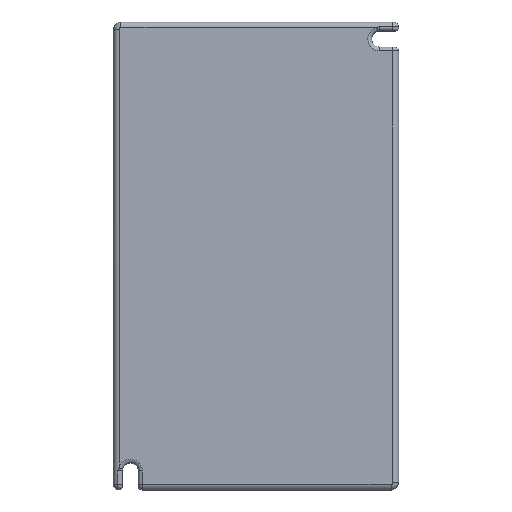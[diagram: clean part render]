
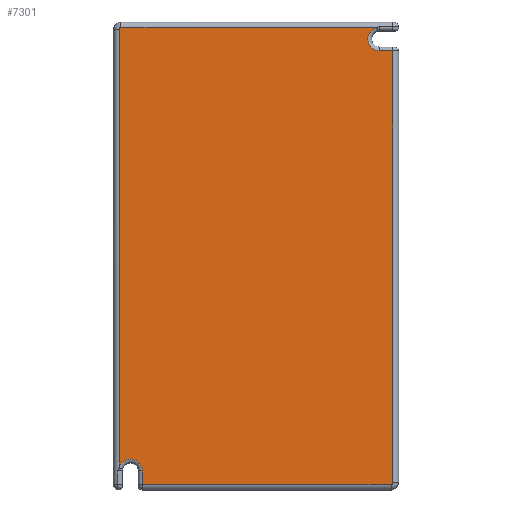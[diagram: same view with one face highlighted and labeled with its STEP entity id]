
A CAD part, front view. The second image highlights one B-rep face of the part: STEP entity #7301.
In plain terms, the highlighted planar face has unit normal (0, -1, 0).
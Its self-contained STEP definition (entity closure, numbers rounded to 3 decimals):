
#71=CARTESIAN_POINT('',(32.5,0.,57.));
#72=DIRECTION('',(0.,1.,0.));
#73=DIRECTION('',(0.,0.,-1.));
#74=AXIS2_PLACEMENT_3D('',#71,#72,#73);
#76=DIRECTION('',(-1.,0.,0.));
#77=VECTOR('',#76,3.5);
#78=CARTESIAN_POINT('',(36.,0.,53.9));
#79=LINE('',#78,#77);
#80=DIRECTION('',(0.,0.,1.));
#81=VECTOR('',#80,113.4);
#82=CARTESIAN_POINT('',(36.,0.,-59.5));
#83=LINE('',#82,#81);
#84=CARTESIAN_POINT('',(35.5,0.,-59.5));
#85=DIRECTION('',(0.,1.,0.));
#86=DIRECTION('',(1.,0.,0.));
#87=AXIS2_PLACEMENT_3D('',#84,#85,#86);
#89=DIRECTION('',(1.,0.,0.));
#90=VECTOR('',#89,65.4);
#91=CARTESIAN_POINT('',(-29.9,0.,-60.));
#92=LINE('',#91,#90);
#93=DIRECTION('',(0.,0.,-1.));
#94=VECTOR('',#93,3.5);
#95=CARTESIAN_POINT('',(-29.9,0.,-56.5));
#96=LINE('',#95,#94);
#97=CARTESIAN_POINT('',(-33.,0.,-56.5));
#98=DIRECTION('',(0.,1.,0.));
#99=DIRECTION('',(-0.968,0.,0.252));
#100=AXIS2_PLACEMENT_3D('',#97,#98,#99);
#102=DIRECTION('',(0.,0.,-1.));
#103=VECTOR('',#102,115.219);
#104=CARTESIAN_POINT('',(-36.,0.,59.5));
#105=LINE('',#104,#103);
#106=CARTESIAN_POINT('',(-35.5,0.,59.5));
#107=DIRECTION('',(0.,1.,0.));
#108=DIRECTION('',(-1.,0.,0.));
#109=AXIS2_PLACEMENT_3D('',#106,#107,#108);
#111=DIRECTION('',(-1.,0.,0.));
#112=VECTOR('',#111,67.219);
#113=CARTESIAN_POINT('',(31.719,0.,60.));
#114=LINE('',#113,#112);
#129=CARTESIAN_POINT('',(31.719,0.,60.));
#6977=CARTESIAN_POINT('',(-35.5,0.,60.));
#6978=VERTEX_POINT('',#6977);
#6979=CARTESIAN_POINT('',(-36.,0.,59.5));
#6980=VERTEX_POINT('',#6979);
#6981=CARTESIAN_POINT('',(35.5,0.,-60.));
#6982=VERTEX_POINT('',#6981);
#6983=CARTESIAN_POINT('',(36.,0.,-59.5));
#6984=VERTEX_POINT('',#6983);
#7210=VERTEX_POINT('',#129);
#7212=CARTESIAN_POINT('',(32.5,0.,53.9));
#7213=VERTEX_POINT('',#7212);
#7216=CARTESIAN_POINT('',(36.,0.,53.9));
#7217=VERTEX_POINT('',#7216);
#7236=CARTESIAN_POINT('',(-29.9,0.,-60.));
#7237=VERTEX_POINT('',#7236);
#7240=CARTESIAN_POINT('',(-29.9,0.,-56.5));
#7241=VERTEX_POINT('',#7240);
#7244=CARTESIAN_POINT('',(-36.,0.,-55.719));
#7245=VERTEX_POINT('',#7244);
#7274=CARTESIAN_POINT('',(0.,0.,0.));
#7275=DIRECTION('',(0.,1.,0.));
#7276=DIRECTION('',(1.,0.,0.));
#7277=AXIS2_PLACEMENT_3D('',#7274,#7275,#7276);
#7278=PLANE('',#7277);
#7280=ORIENTED_EDGE('',*,*,#7279,.F.);
#7282=ORIENTED_EDGE('',*,*,#7281,.F.);
#7284=ORIENTED_EDGE('',*,*,#7283,.F.);
#7286=ORIENTED_EDGE('',*,*,#7285,.T.);
#7288=ORIENTED_EDGE('',*,*,#7287,.F.);
#7290=ORIENTED_EDGE('',*,*,#7289,.F.);
#7292=ORIENTED_EDGE('',*,*,#7291,.F.);
#7294=ORIENTED_EDGE('',*,*,#7293,.F.);
#7296=ORIENTED_EDGE('',*,*,#7295,.T.);
#7298=ORIENTED_EDGE('',*,*,#7297,.F.);
#7299=EDGE_LOOP('',(#7280,#7282,#7284,#7286,#7288,#7290,#7292,#7294,#7296,
#7298));
#7300=FACE_OUTER_BOUND('',#7299,.F.);
#75=CIRCLE('',#74,3.1);
#88=CIRCLE('',#87,0.5);
#101=CIRCLE('',#100,3.1);
#110=CIRCLE('',#109,0.5);
#7279=EDGE_CURVE('',#7213,#7210,#75,.T.);
#7281=EDGE_CURVE('',#7217,#7213,#79,.T.);
#7283=EDGE_CURVE('',#6984,#7217,#83,.T.);
#7285=EDGE_CURVE('',#6984,#6982,#88,.T.);
#7287=EDGE_CURVE('',#7237,#6982,#92,.T.);
#7289=EDGE_CURVE('',#7241,#7237,#96,.T.);
#7291=EDGE_CURVE('',#7245,#7241,#101,.T.);
#7293=EDGE_CURVE('',#6980,#7245,#105,.T.);
#7295=EDGE_CURVE('',#6980,#6978,#110,.T.);
#7297=EDGE_CURVE('',#7210,#6978,#114,.T.);
#7301=ADVANCED_FACE('',(#7300),#7278,.F.);
